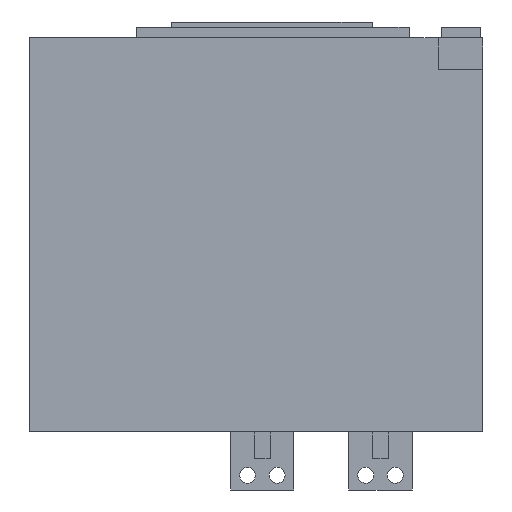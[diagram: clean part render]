
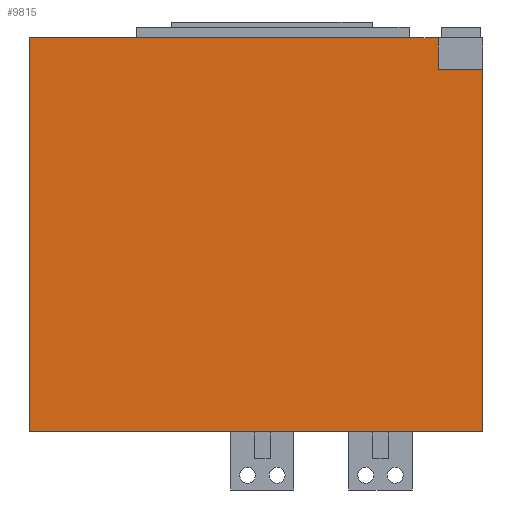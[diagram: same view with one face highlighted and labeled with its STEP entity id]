
A CAD part, left-side view. The second image highlights one B-rep face of the part: STEP entity #9815.
In plain terms, the highlighted planar face has unit normal (-1, 0, 0).
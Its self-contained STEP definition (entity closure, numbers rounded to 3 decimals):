
#159 = ORIENTED_EDGE ( 'NONE', *, *, #30444, .F. ) ;
#221 = EDGE_CURVE ( 'NONE', #29109, #3755, #13959, .T. ) ;
#321 = ORIENTED_EDGE ( 'NONE', *, *, #8816, .F. ) ;
#2179 = CARTESIAN_POINT ( 'NONE',  ( -262.5, 430., -373.5 ) ) ;
#2778 = LINE ( 'NONE', #4783, #17911 ) ;
#3755 = VERTEX_POINT ( 'NONE', #4437 ) ;
#4437 = CARTESIAN_POINT ( 'NONE',  ( -262.5, 0., -30. ) ) ;
#4722 = LINE ( 'NONE', #2179, #20793 ) ;
#4783 = CARTESIAN_POINT ( 'NONE',  ( -262.5, 42.5, -373.5 ) ) ;
#6838 = EDGE_CURVE ( 'NONE', #19771, #24502, #13313, .T. ) ;
#7624 = EDGE_LOOP ( 'NONE', ( #7925, #321, #9079, #15388, #159, #38482 ) ) ;
#7925 = ORIENTED_EDGE ( 'NONE', *, *, #6838, .F. ) ;
#8816 = EDGE_CURVE ( 'NONE', #39124, #19771, #4722, .T. ) ;
#8899 = AXIS2_PLACEMENT_3D ( 'NONE', #33242, #15140, #36283 ) ;
#9079 = ORIENTED_EDGE ( 'NONE', *, *, #28428, .T. ) ;
#9815 = ADVANCED_FACE ( 'NONE', ( #38242 ), #30187, .T. ) ;
#10888 = VERTEX_POINT ( 'NONE', #28898 ) ;
#11064 = DIRECTION ( 'NONE',  ( 0., -1., 0. ) ) ;
#12608 = DIRECTION ( 'NONE',  ( 0., -1., 0. ) ) ;
#13313 = LINE ( 'NONE', #30675, #29375 ) ;
#13959 = LINE ( 'NONE', #22636, #36161 ) ;
#14230 = CARTESIAN_POINT ( 'NONE',  ( -262.5, 0., -373.5 ) ) ;
#14675 = DIRECTION ( 'NONE',  ( 0., -1., 0. ) ) ;
#15140 = DIRECTION ( 'NONE',  ( -1., 0., 0. ) ) ;
#15388 = ORIENTED_EDGE ( 'NONE', *, *, #221, .T. ) ;
#17208 = CARTESIAN_POINT ( 'NONE',  ( -262.5, 430., -373.5 ) ) ;
#17911 = VECTOR ( 'NONE', #19835, 1000. ) ;
#19771 = VERTEX_POINT ( 'NONE', #34638 ) ;
#19835 = DIRECTION ( 'NONE',  ( 0., 0., 1. ) ) ;
#19897 = EDGE_CURVE ( 'NONE', #10888, #24502, #2778, .T. ) ;
#20793 = VECTOR ( 'NONE', #26392, 1000. ) ;
#22636 = CARTESIAN_POINT ( 'NONE',  ( -262.5, 0., -373.5 ) ) ;
#22989 = CARTESIAN_POINT ( 'NONE',  ( -262.5, 430.001, -30. ) ) ;
#24322 = DIRECTION ( 'NONE',  ( 0., 0., 1. ) ) ;
#24502 = VERTEX_POINT ( 'NONE', #33781 ) ;
#24828 = LINE ( 'NONE', #14230, #32874 ) ;
#26392 = DIRECTION ( 'NONE',  ( 0., 0., 1. ) ) ;
#27818 = CARTESIAN_POINT ( 'NONE',  ( -262.5, 0., -373.5 ) ) ;
#28428 = EDGE_CURVE ( 'NONE', #39124, #29109, #24828, .T. ) ;
#28898 = CARTESIAN_POINT ( 'NONE',  ( -262.5, 42.5, -30. ) ) ;
#29109 = VERTEX_POINT ( 'NONE', #27818 ) ;
#29375 = VECTOR ( 'NONE', #12608, 1000. ) ;
#29461 = VECTOR ( 'NONE', #14675, 1000. ) ;
#30187 = PLANE ( 'NONE',  #8899 ) ;
#30390 = LINE ( 'NONE', #22989, #29461 ) ;
#30444 = EDGE_CURVE ( 'NONE', #10888, #3755, #30390, .T. ) ;
#30675 = CARTESIAN_POINT ( 'NONE',  ( -262.5, 0., 0. ) ) ;
#32874 = VECTOR ( 'NONE', #11064, 1000. ) ;
#33242 = CARTESIAN_POINT ( 'NONE',  ( -262.5, 0., -373.5 ) ) ;
#33781 = CARTESIAN_POINT ( 'NONE',  ( -262.5, 42.5, 0. ) ) ;
#34638 = CARTESIAN_POINT ( 'NONE',  ( -262.5, 430., 0. ) ) ;
#36161 = VECTOR ( 'NONE', #24322, 1000. ) ;
#36283 = DIRECTION ( 'NONE',  ( 0., -1., 0. ) ) ;
#38242 = FACE_OUTER_BOUND ( 'NONE', #7624, .T. ) ;
#38482 = ORIENTED_EDGE ( 'NONE', *, *, #19897, .T. ) ;
#39124 = VERTEX_POINT ( 'NONE', #17208 ) ;
